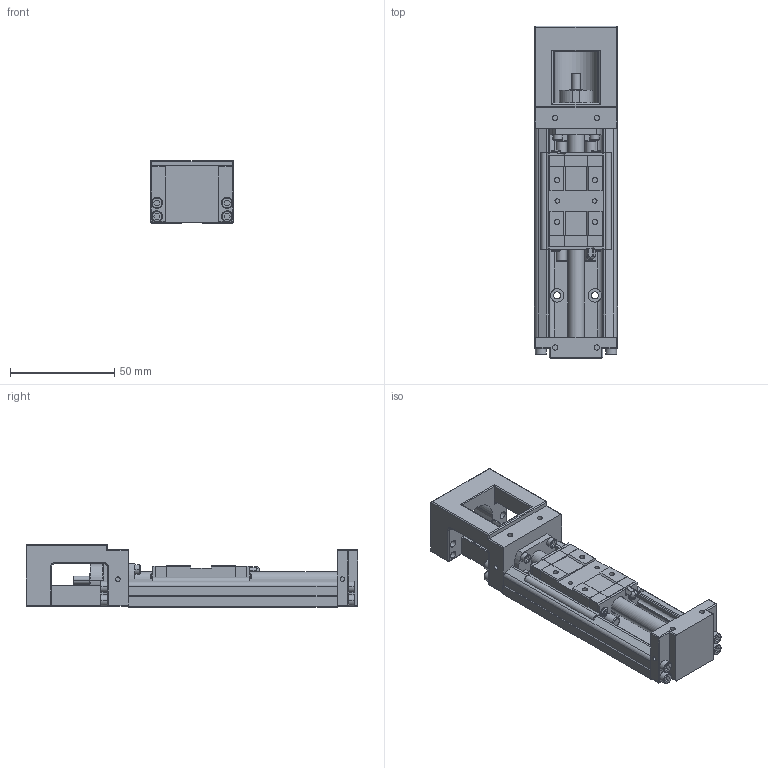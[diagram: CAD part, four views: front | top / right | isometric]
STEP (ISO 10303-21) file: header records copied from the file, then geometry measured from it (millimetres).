
FILE_DESCRIPTION(('no description'),'unknown implementation level');
FILE_NAME('KK4001P100A1F0000_FILE_1.stp',' ',('HIWIN GmbH'),('CADClick - KiM GmbH - www.kimweb.de'),'unknown preprocess','ACIS','unknown authorization');
FILE_SCHEMA(('automotive_design'));
Length unit declared in the file: millimetre
Products named in the file (2): KK40_FILE; KK4001P100A1F0000_FILE
Bounding box: 40 x 159 x 30 mm (x, y, z)
Volume: 87973.9 mm3; surface area: 39269.4 mm2
Topology: 2 solids, 14 shells, 779 faces, 1967 edges, 1256 vertices
Faces by surface type: plane 461, cylinder 266, torus 46, sphere 6
Entity records: 46340 total; most frequent: CARTESIAN_POINT 4672, DIRECTION 4150, STYLED_ITEM 4000, PRESENTATION_STYLE_ASSIGNMENT 4000, COLOUR_RGB 4000, ORIENTED_EDGE 3926, EDGE_CURVE 1963, CURVE_STYLE 1963
